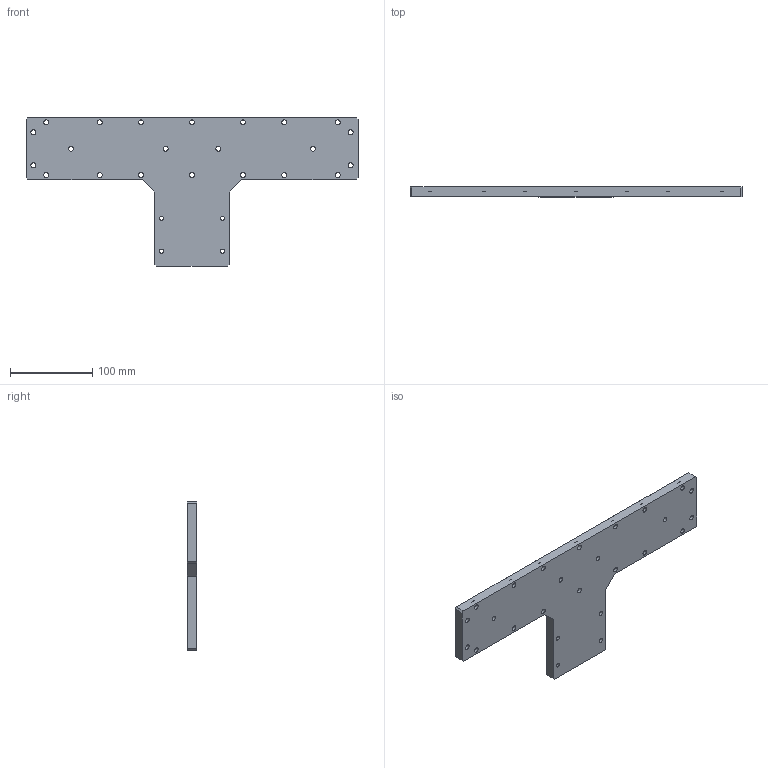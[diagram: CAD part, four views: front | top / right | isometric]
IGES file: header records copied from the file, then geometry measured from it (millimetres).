
Start section:  PTC IGES file: k60-k80l-ft.igs
Global section: file name: k60-k80l-ft.igs; native system: Pro/ENGINEER by Parametric Technology Corporation; preprocessor: 2008230; author: Owner; organization: Unknown; date: 20121212.105302; units: millimetre
Bounding box: 403 x 12 x 180 mm (x, y, z)
Surface area: 99875.3 mm2 (no closed solid volume)
Topology: 0 solids, 0 shells, 136 faces, 724 edges, 718 vertices
Faces by surface type: revolution 96, bspline 40
